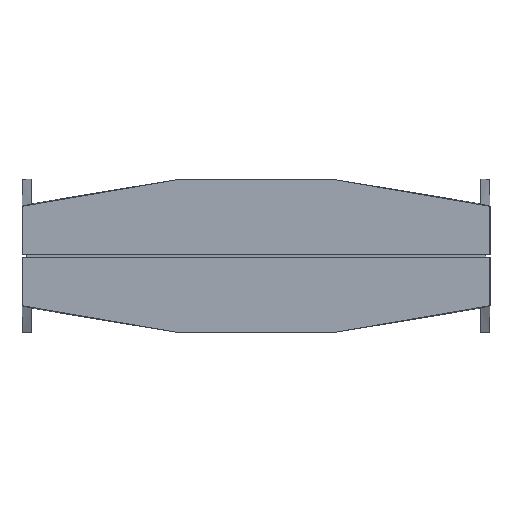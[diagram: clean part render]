
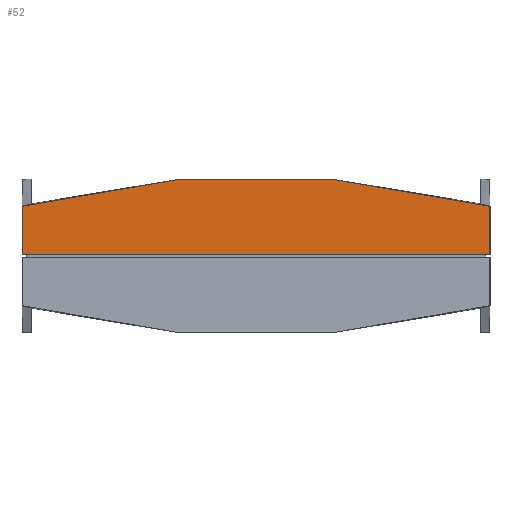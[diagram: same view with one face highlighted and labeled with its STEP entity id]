
A CAD part, left-side view. The second image highlights one B-rep face of the part: STEP entity #52.
In plain terms, the highlighted planar face has unit normal (-1, 0, 0).
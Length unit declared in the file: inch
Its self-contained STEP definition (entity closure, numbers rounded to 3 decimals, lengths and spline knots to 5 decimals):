
#52=ADVANCED_FACE('',(#92),#630,.T.);
#92=FACE_OUTER_BOUND('',#132,.T.);
#132=EDGE_LOOP('',(#273,#274,#275,#276));
#273=ORIENTED_EDGE('',*,*,#394,.F.);
#274=ORIENTED_EDGE('',*,*,#386,.F.);
#275=ORIENTED_EDGE('',*,*,#389,.T.);
#276=ORIENTED_EDGE('',*,*,#401,.F.);
#386=EDGE_CURVE('',#579,#580,#522,.T.);
#389=EDGE_CURVE('',#579,#585,#475,.T.);
#394=EDGE_CURVE('',#580,#589,#479,.T.);
#401=EDGE_CURVE('',#589,#585,#485,.T.);
#475=B_SPLINE_CURVE_WITH_KNOTS('',1,(#1090,#1091),.UNSPECIFIED.,.F.,.F.,
(2,2),(314.37927,316.81537),.UNSPECIFIED.);
#479=B_SPLINE_CURVE_WITH_KNOTS('',1,(#1105,#1106),.UNSPECIFIED.,.F.,.F.,
(2,2),(314.37927,316.81537),.UNSPECIFIED.);
#485=B_SPLINE_CURVE_WITH_KNOTS('',1,(#1120,#1121),.UNSPECIFIED.,.F.,.F.,
(2,2),(-47.24999,-23.75),.UNSPECIFIED.);
#522=TRIMMED_CURVE($,#538,(#1080),(#1081),.T.,.CARTESIAN.);
#538=CIRCLE('',#779,46.6291);
#579=VERTEX_POINT('',#1062);
#580=VERTEX_POINT('',#1063);
#585=VERTEX_POINT('',#1068);
#589=VERTEX_POINT('',#1072);
#630=PLANE('',#775);
#775=AXIS2_PLACEMENT_3D('',#1057,#843,$);
#779=AXIS2_PLACEMENT_3D($,#1079,#848,#849);
#843=DIRECTION('',(-1.,0.,0.));
#848=DIRECTION('',(1.,0.,0.));
#849=DIRECTION('',(0.,0.252,0.968));
#1057=CARTESIAN_POINT('',(2710.03378,195.49431,26.64125));
#1062=CARTESIAN_POINT('',(2710.03378,195.49431,25.09713));
#1063=CARTESIAN_POINT('',(2710.03378,171.99431,25.09713));
#1068=CARTESIAN_POINT('',(2710.03378,195.49431,22.66103));
#1072=CARTESIAN_POINT('',(2710.03378,171.99431,22.66103));
#1079=CARTESIAN_POINT('',(2710.03378,183.74431,-20.02726));
#1080=CARTESIAN_POINT('',(2710.03378,195.49431,25.09713));
#1081=CARTESIAN_POINT('',(2710.03378,171.99431,25.09713));
#1090=CARTESIAN_POINT('',(2710.03378,195.49431,25.09713));
#1091=CARTESIAN_POINT('',(2710.03378,195.49431,22.66103));
#1105=CARTESIAN_POINT('',(2710.03378,171.99431,25.09713));
#1106=CARTESIAN_POINT('',(2710.03378,171.99431,22.66103));
#1120=CARTESIAN_POINT('',(2710.03378,171.99431,22.66103));
#1121=CARTESIAN_POINT('',(2710.03378,195.49431,22.66103));
